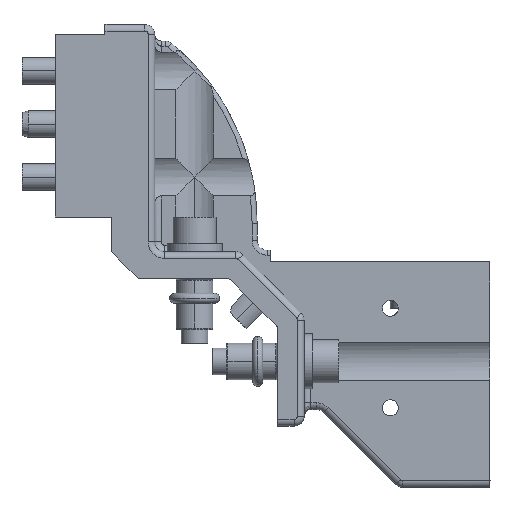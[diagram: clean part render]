
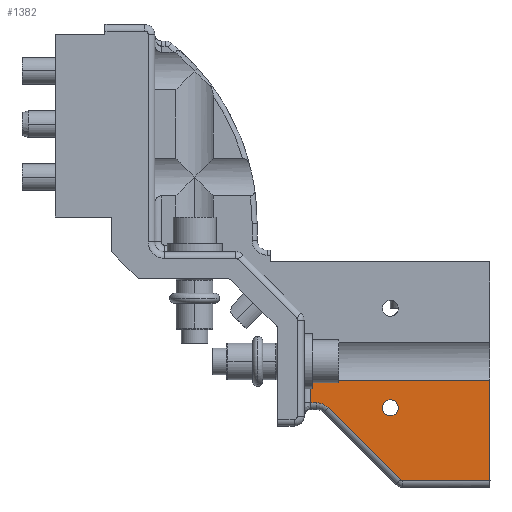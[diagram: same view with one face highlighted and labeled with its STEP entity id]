
A CAD part, front view. The second image highlights one B-rep face of the part: STEP entity #1382.
In plain terms, the highlighted planar face has unit normal (0, -1, 0).
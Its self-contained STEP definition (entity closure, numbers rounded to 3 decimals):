
#1382=ADVANCED_FACE('EGT_276_5251910__A__1_A_CA_FRGMOD_ANBIND._SPANNER_50_63_AN_SW50_WAAGE_FMFF_3D_SET 1.1',(#2899,#2900),#2901,.T.);
#2899=FACE_OUTER_BOUND('',#4641,.T.);
#2900=FACE_BOUND('',#4642,.T.);
#2901=PLANE('',#4643);
#4641=EDGE_LOOP('',(#8291,#8292,#8293,#8294,#8295,#8296,#8297,#8298));
#4642=EDGE_LOOP('',(#8299,#8300));
#4643=AXIS2_PLACEMENT_3D('',#8301,#8302,#8303);
#8291=ORIENTED_EDGE('',*,*,#11200,.T.);
#8292=ORIENTED_EDGE('',*,*,#11201,.T.);
#8293=ORIENTED_EDGE('',*,*,#11202,.T.);
#8294=ORIENTED_EDGE('',*,*,#11203,.T.);
#8295=ORIENTED_EDGE('',*,*,#11204,.T.);
#8296=ORIENTED_EDGE('',*,*,#11144,.T.);
#8297=ORIENTED_EDGE('',*,*,#11205,.F.);
#8298=ORIENTED_EDGE('',*,*,#11206,.F.);
#8299=ORIENTED_EDGE('',*,*,#11004,.F.);
#8300=ORIENTED_EDGE('',*,*,#11207,.F.);
#8301=CARTESIAN_POINT('',(0.,-8.,0.));
#8302=DIRECTION('',(0.,-1.,0.));
#8303=DIRECTION('',(0.0,0.,-1.));
#11004=EDGE_CURVE('',#13320,#13323,#13324,.T.);
#11144=EDGE_CURVE('',#13552,#13553,#13554,.T.);
#11200=EDGE_CURVE('',#13647,#13648,#13649,.T.);
#11201=EDGE_CURVE('',#13648,#13650,#13651,.T.);
#11202=EDGE_CURVE('',#13650,#13652,#13653,.T.);
#11203=EDGE_CURVE('',#13652,#13654,#13655,.T.);
#11204=EDGE_CURVE('',#13654,#13552,#13656,.T.);
#11205=EDGE_CURVE('',#13657,#13553,#13658,.T.);
#11206=EDGE_CURVE('',#13647,#13657,#13659,.T.);
#11207=EDGE_CURVE('',#13323,#13320,#13660,.T.);
#13320=VERTEX_POINT('',#20322);
#13323=VERTEX_POINT('',#20326);
#13324=(B_SPLINE_CURVE(2,(#20328,#20329,#20330,#20331,#20332),.UNSPECIFIED.,.F.,.F.)B_SPLINE_CURVE_WITH_KNOTS((3,2,3),(-3.142,-1.571,0.),.UNSPECIFIED.)RATIONAL_B_SPLINE_CURVE((1.0,0.707,1.0,0.707,1.0))BOUNDED_CURVE()REPRESENTATION_ITEM('')GEOMETRIC_REPRESENTATION_ITEM()CURVE());
#13552=VERTEX_POINT('',#21462);
#13553=VERTEX_POINT('',#21463);
#13554=B_SPLINE_CURVE_WITH_KNOTS('',1,(#21464,#21465),.UNSPECIFIED.,.F.,.F.,(2,2),(0.,1.),.UNSPECIFIED.);
#13647=VERTEX_POINT('',#21798);
#13648=VERTEX_POINT('',#21799);
#13649=B_SPLINE_CURVE_WITH_KNOTS('',1,(#21800,#21801),.UNSPECIFIED.,.F.,.F.,(2,2),(0.,1.0),.UNSPECIFIED.);
#13650=VERTEX_POINT('',#21802);
#13651=(B_SPLINE_CURVE(2,(#21804,#21805,#21806),.UNSPECIFIED.,.F.,.F.)B_SPLINE_CURVE_WITH_KNOTS((3,3),(0.,0.785),.UNSPECIFIED.)RATIONAL_B_SPLINE_CURVE((1.0,0.924,1.0))BOUNDED_CURVE()REPRESENTATION_ITEM('')GEOMETRIC_REPRESENTATION_ITEM()CURVE());
#13652=VERTEX_POINT('',#21813);
#13653=B_SPLINE_CURVE_WITH_KNOTS('',1,(#21814,#21815),.UNSPECIFIED.,.F.,.F.,(2,2),(0.,1.0),.UNSPECIFIED.);
#13654=VERTEX_POINT('',#21816);
#13655=(B_SPLINE_CURVE(2,(#21818,#21819,#21820),.UNSPECIFIED.,.F.,.F.)B_SPLINE_CURVE_WITH_KNOTS((3,3),(0.0,0.785),.UNSPECIFIED.)RATIONAL_B_SPLINE_CURVE((1.0,0.924,1.0))BOUNDED_CURVE()REPRESENTATION_ITEM('')GEOMETRIC_REPRESENTATION_ITEM()CURVE());
#13656=B_SPLINE_CURVE_WITH_KNOTS('',1,(#21827,#21828),.UNSPECIFIED.,.F.,.F.,(2,2),(0.,1.0),.UNSPECIFIED.);
#13657=VERTEX_POINT('',#21829);
#13658=B_SPLINE_CURVE_WITH_KNOTS('',1,(#21830,#21831),.UNSPECIFIED.,.F.,.F.,(2,2),(0.0,1.),.UNSPECIFIED.);
#13659=B_SPLINE_CURVE_WITH_KNOTS('',1,(#21832,#21833),.UNSPECIFIED.,.F.,.F.,(2,2),(0.,1.0),.UNSPECIFIED.);
#13660=(B_SPLINE_CURVE(2,(#21835,#21836,#21837,#21838,#21839),.UNSPECIFIED.,.F.,.F.)B_SPLINE_CURVE_WITH_KNOTS((3,2,3),(0.,1.571,3.142),.UNSPECIFIED.)RATIONAL_B_SPLINE_CURVE((1.0,0.707,1.0,0.707,1.0))BOUNDED_CURVE()REPRESENTATION_ITEM('')GEOMETRIC_REPRESENTATION_ITEM()CURVE());
#20322=CARTESIAN_POINT('',(114.,-8.,-146.6));
#20326=CARTESIAN_POINT('',(114.,-8.,-151.4));
#20328=CARTESIAN_POINT('',(114.,-8.,-146.6));
#20329=CARTESIAN_POINT('',(111.6,-8.,-146.6));
#20330=CARTESIAN_POINT('',(111.6,-8.,-149.));
#20331=CARTESIAN_POINT('',(111.6,-8.,-151.4));
#20332=CARTESIAN_POINT('',(114.,-8.,-151.4));
#21462=CARTESIAN_POINT('',(144.,-8.,-171.));
#21463=CARTESIAN_POINT('',(144.,-8.,-140.657));
#21464=CARTESIAN_POINT('',(144.,-8.,-171.));
#21465=CARTESIAN_POINT('',(144.,-8.,-140.657));
#21798=CARTESIAN_POINT('',(90.,-8.,-147.5));
#21799=CARTESIAN_POINT('',(91.757,-8.,-147.5));
#21800=CARTESIAN_POINT('',(90.,-8.,-147.5));
#21801=CARTESIAN_POINT('',(91.757,-8.,-147.5));
#21802=CARTESIAN_POINT('',(95.293,-8.,-148.964));
#21804=CARTESIAN_POINT('',(91.757,-8.,-147.5));
#21805=CARTESIAN_POINT('',(93.828,-8.,-147.5));
#21806=CARTESIAN_POINT('',(95.293,-8.,-148.964));
#21813=CARTESIAN_POINT('',(117.036,-8.,-170.707));
#21814=CARTESIAN_POINT('',(95.293,-8.,-148.964));
#21815=CARTESIAN_POINT('',(117.036,-8.,-170.707));
#21816=CARTESIAN_POINT('',(117.743,-8.,-171.));
#21818=CARTESIAN_POINT('',(117.036,-8.,-170.707));
#21819=CARTESIAN_POINT('',(117.328,-8.,-171.));
#21820=CARTESIAN_POINT('',(117.743,-8.,-171.));
#21827=CARTESIAN_POINT('',(117.743,-8.,-171.));
#21828=CARTESIAN_POINT('',(144.,-8.,-171.));
#21829=CARTESIAN_POINT('',(90.,-8.,-140.657));
#21830=CARTESIAN_POINT('',(90.,-8.,-140.657));
#21831=CARTESIAN_POINT('',(144.,-8.,-140.657));
#21832=CARTESIAN_POINT('',(90.,-8.,-147.5));
#21833=CARTESIAN_POINT('',(90.,-8.,-140.657));
#21835=CARTESIAN_POINT('',(114.,-8.,-151.4));
#21836=CARTESIAN_POINT('',(116.4,-8.,-151.4));
#21837=CARTESIAN_POINT('',(116.4,-8.,-149.));
#21838=CARTESIAN_POINT('',(116.4,-8.,-146.6));
#21839=CARTESIAN_POINT('',(114.,-8.,-146.6));
